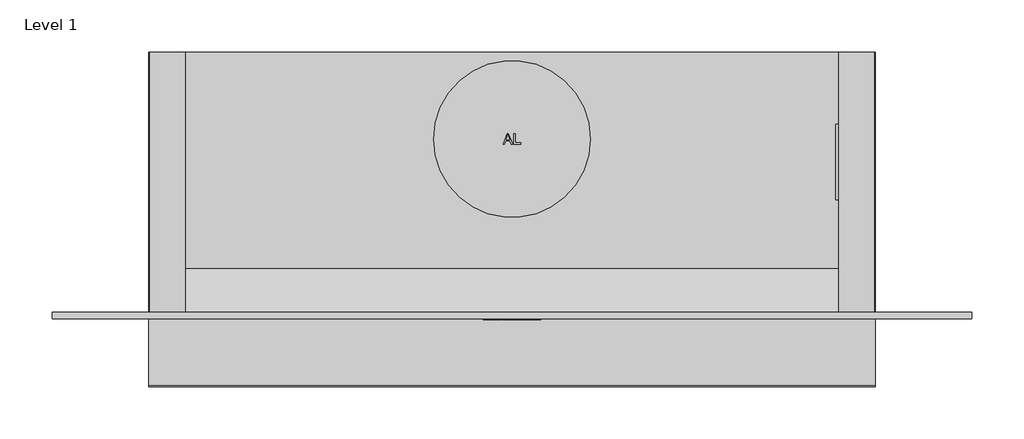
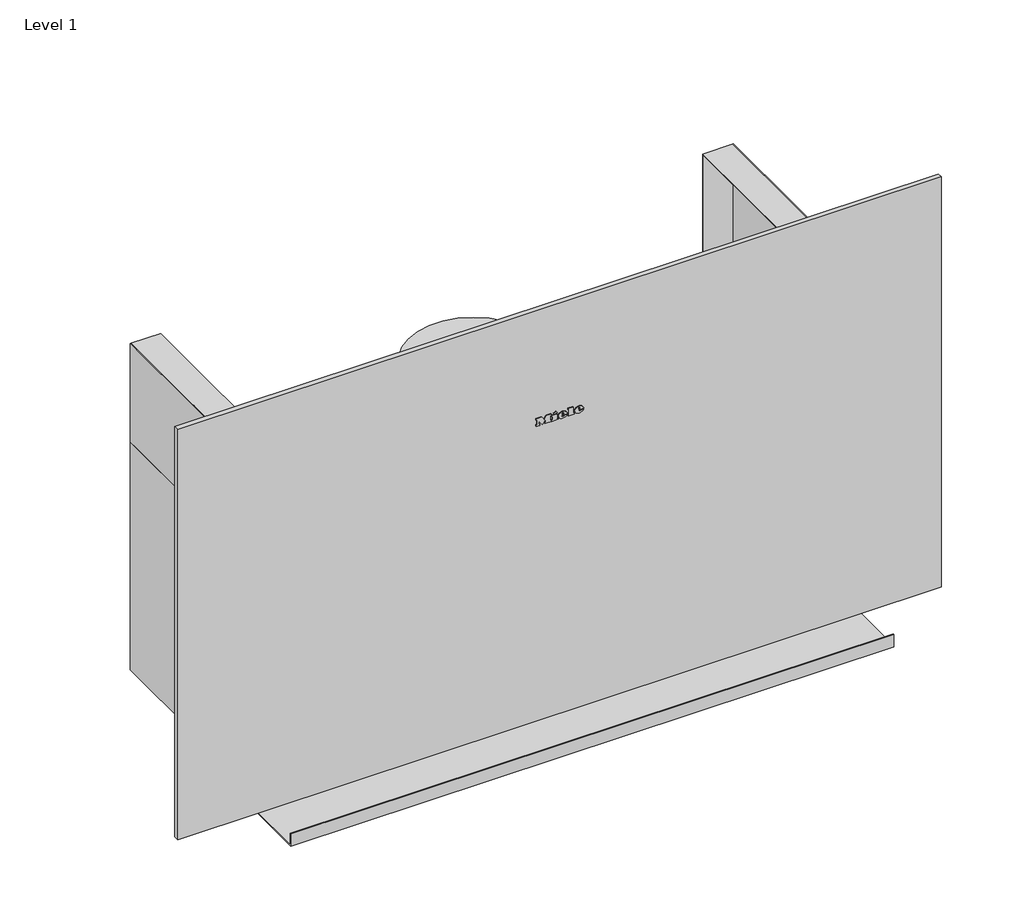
# One storey: 1 proxy.
"""IFC4 building model written with IfcOpenShell, lengths in millimetres."""

from ifc_helpers import new_model, si_unit, origin, place, context, project, spatial, transform, mapped, element, save
from components import specialty_equipment_b4d667ea

model = new_model("IFC4")

# Units and contexts
model_context = context("Model", 3, world=origin())
ifc_project = project(units=[si_unit("LENGTHUNIT", "METRE", prefix="MILLI")], contexts=[model_context])

# Site, building, storey
site = spatial("IfcSite", under=ifc_project)
building = spatial("IfcBuilding", under=site)
storey = spatial("IfcBuildingStorey", under=building, Name="Level 1", Elevation=0.0)

# Proxy
placement = place(None, origin())
specialty_equipment_shape = specialty_equipment_b4d667ea(model_context)
element("IfcBuildingElementProxy", 1, Name="11687680_RU_DA9091W_OBSW : 28909140_RU_11687680_DA9091W_OBSW", ObjectType="11687680_RU_DA9091W_OBSW : 28909140_RU_11687680_DA9091W_OBSW", at=placement, inside=storey, context=model_context, shape_type="MappedRepresentation", body=[
    mapped(specialty_equipment_shape, transform((0.0, 0.0, 0.0), x_axis=(1.0, 0.0, 0.0), y_axis=(0.0, 1.0, 0.0), z_axis=(0.0, 0.0, 1.0))),
])

save(model, "model.ifc")
